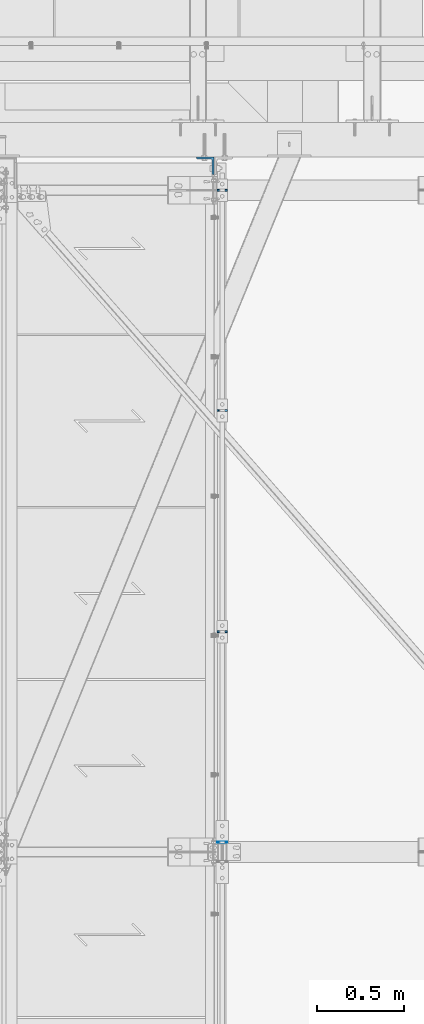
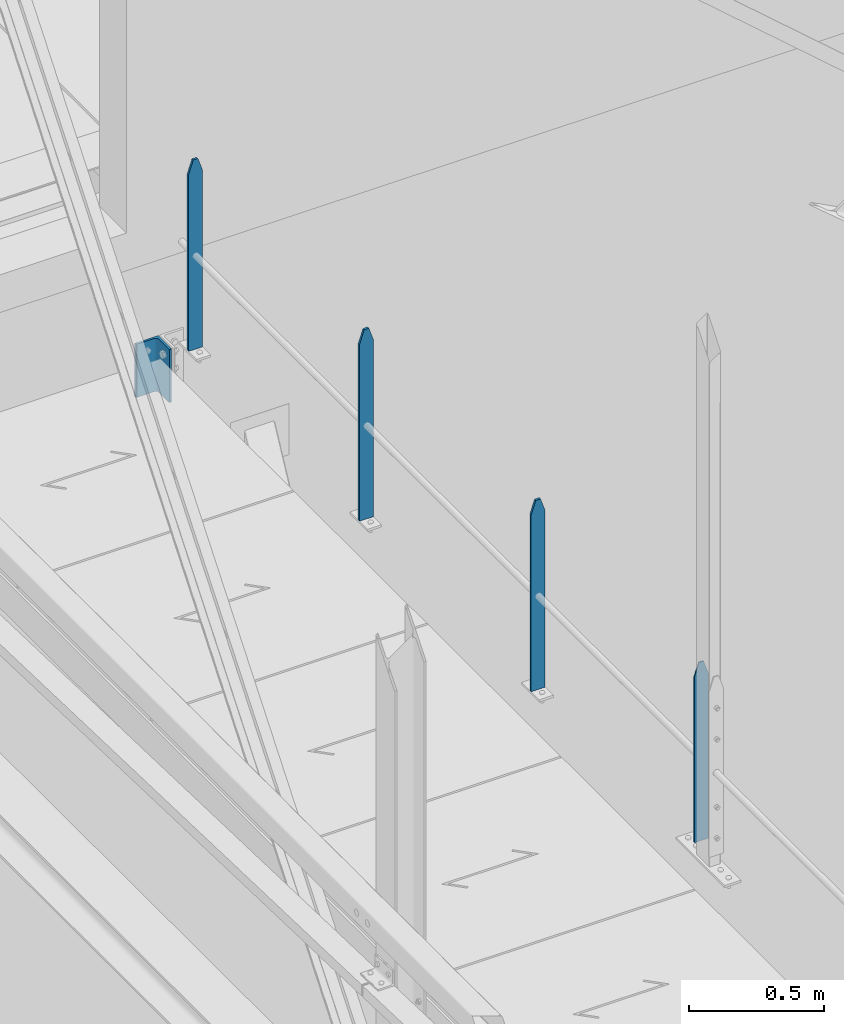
# One storey, part 27 of 362: 5 columns, 2 elements without a shape of their own.
"""IFC2X3 building model written with IfcOpenShell, lengths in millimetres."""

from ifc_helpers import new_model, si_unit, frame, origin_with_axes, origin_2d_with_axis, place, context, subcontext, project, spatial, rectangle, l_section, extrude, clip, halfspace, material, type_object, element, aggregate, save


model = new_model("IFC2X3")

# Units and contexts
model_context = context("Model", 3, precision=1e-05, world=origin_with_axes())
body_context = subcontext(model_context, "Body", "Model", "MODEL_VIEW")
ifc_project = project(units=[si_unit("LENGTHUNIT", "METRE", prefix="MILLI"), si_unit("AREAUNIT", "SQUARE_METRE"), si_unit("VOLUMEUNIT", "CUBIC_METRE"), si_unit("MASSUNIT", "GRAM", prefix="KILO"), si_unit("TIMEUNIT", "SECOND"), si_unit("PLANEANGLEUNIT", "RADIAN"), si_unit("SOLIDANGLEUNIT", "STERADIAN"), si_unit("THERMODYNAMICTEMPERATUREUNIT", "DEGREE_CELSIUS"), si_unit("LUMINOUSINTENSITYUNIT", "LUMEN")], contexts=[model_context])

# Site, building, storey
site_placement = place(None, origin_with_axes())
site = spatial("IfcSite", under=ifc_project, at=site_placement, Name="Undefined", CompositionType="ELEMENT")
building_placement = place(site_placement, origin_with_axes())
building = spatial("IfcBuilding", under=site, at=building_placement, Name="Undefined", CompositionType="ELEMENT")
storey_placement = place(building_placement, origin_with_axes())
storey = spatial("IfcBuildingStorey", under=building, at=storey_placement, Name="Undefined", CompositionType="ELEMENT", Elevation=0.0)

# Assembly, columns
assembly_1_placement = place(storey_placement, origin_with_axes())
assembly_1 = element("IfcElementAssembly", 1, at=assembly_1_placement, inside=storey, Name="MAIN COURANTE", AssemblyPlace="NOTDEFINED", PredefinedType="NOTDEFINED")
ifc_material = material(Name="Undefined/S235-E24")
column_type_1 = type_object("IfcColumnType", Name="PL10*60", PredefinedType="NOTDEFINED")
column_1_placement = place(assembly_1_placement, frame((13993.999893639, 15200.0000000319, 8249.99999828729), z_axis=(0.0, 0.0, 1.0), x_axis=(1.0, 0.0, 0.0)))
column_1 = element("IfcColumn", 2, at=column_1_placement, type_object=column_type_1, material=ifc_material, Name="MONTANT", ObjectType="PL10*60", context=body_context, shape_type="Clipping", body=[
    clip(clip(extrude(rectangle(XDim=10.0, YDim=60.0, at=origin_2d_with_axis()), frame((0.0, 0.0, 857.599997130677), z_axis=(0.0, 0.0, -1.0), x_axis=(0.0, 1.0, 0.0)), (0.0, 0.0, 1.0), 857.6), halfspace(frame((30.0000001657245, -5.000000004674, 797.599997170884), z_axis=(0.948683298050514, 0.0, 0.316227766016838), x_axis=(-0.316227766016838, 0.0, 0.948683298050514)), False)), halfspace(frame((-29.9999998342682, 4.99999999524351, 797.599997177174), z_axis=(-0.948683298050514, 0.0, 0.316227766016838), x_axis=(0.316227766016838, 0.0, 0.948683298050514)), False)),
])
column_2_placement = place(assembly_1_placement, frame((13993.9998916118, 12665.0034471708, 8250.00000011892), z_axis=(0.0, 0.0, 1.0), x_axis=(1.0, 0.0, 0.0)))
column_2 = element("IfcColumn", 3, at=column_2_placement, type_object=column_type_1, material=ifc_material, Name="MONTANT", ObjectType="PL10*60", context=body_context, shape_type="Clipping", body=[
    clip(clip(extrude(rectangle(XDim=10.0, YDim=60.0, at=origin_2d_with_axis()), frame((0.0, 0.0, 857.599997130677), z_axis=(0.0, 0.0, -1.0), x_axis=(0.0, 1.0, 0.0)), (0.0, 0.0, 1.0), 857.6), halfspace(frame((30.0000001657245, -5.000000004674, 797.599997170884), z_axis=(0.948683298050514, 0.0, 0.316227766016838), x_axis=(-0.316227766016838, 0.0, 0.948683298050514)), False)), halfspace(frame((-29.9999998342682, 4.99999999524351, 797.599997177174), z_axis=(-0.948683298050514, 0.0, 0.316227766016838), x_axis=(0.316227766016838, 0.0, 0.948683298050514)), False)),
])
column_3_placement = place(assembly_1_placement, frame((13993.999892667, 13935.0034471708, 8249.99999924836), z_axis=(0.0, 0.0, 1.0), x_axis=(1.0, 0.0, 0.0)))
column_3 = element("IfcColumn", 4, at=column_3_placement, type_object=column_type_1, material=ifc_material, Name="MONTANT", ObjectType="PL10*60", context=body_context, shape_type="Clipping", body=[
    clip(clip(extrude(rectangle(XDim=10.0, YDim=60.0, at=origin_2d_with_axis()), frame((0.0, 0.0, 857.599997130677), z_axis=(0.0, 0.0, -1.0), x_axis=(0.0, 1.0, 0.0)), (0.0, 0.0, 1.0), 857.6), halfspace(frame((30.0000001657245, -5.000000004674, 797.599997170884), z_axis=(0.948683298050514, 0.0, 0.316227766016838), x_axis=(-0.316227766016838, 0.0, 0.948683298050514)), False)), halfspace(frame((-29.9999998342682, 4.99999999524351, 797.599997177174), z_axis=(-0.948683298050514, 0.0, 0.316227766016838), x_axis=(0.316227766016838, 0.0, 0.948683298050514)), False)),
])
column_type_2 = type_object("IfcColumnType", Name="PL5*60", PredefinedType="NOTDEFINED")
column_4_placement = place(assembly_1_placement, frame((13993.9998909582, 11455.0000089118, 8300.00000102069), z_axis=(0.0, 0.0, 1.0), x_axis=(1.0, 0.0, 0.0)))
column_4 = element("IfcColumn", 5, at=column_4_placement, type_object=column_type_2, material=ifc_material, Name="MONTANT", ObjectType="PL5*60", context=body_context, shape_type="Clipping", body=[
    clip(clip(extrude(rectangle(XDim=5.0, YDim=60.0, at=origin_2d_with_axis()), frame((0.0, 0.0, 807.599997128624), z_axis=(0.0, 0.0, -1.0), x_axis=(0.0, 1.0, 0.0)), (0.0, 0.0, 1.0), 807.6), halfspace(frame((29.9999999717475, -5.00000000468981, 747.599997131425), z_axis=(0.948683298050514, 0.0, 0.316227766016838), x_axis=(-0.316227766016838, 0.0, 0.948683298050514)), False)), halfspace(frame((-30.000000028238, 4.99999999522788, 747.599997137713), z_axis=(-0.948683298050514, 0.0, 0.316227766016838), x_axis=(0.316227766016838, 0.0, 0.948683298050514)), False)),
])
aggregate(assembly_1, [column_1, column_4, column_2, column_3])

# Assembly, column
assembly_2_placement = place(storey_placement, origin_with_axes())
assembly_2 = element("IfcElementAssembly", 6, at=assembly_2_placement, inside=storey, AssemblyPlace="NOTDEFINED", PredefinedType="NOTDEFINED")
column_type_3 = type_object("IfcColumnType", Name="L100*10", PredefinedType="NOTDEFINED")
column_5_placement = place(assembly_2_placement, frame((13896.4998855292, 15339.9999998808, 7970.00437164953), z_axis=(0.0, 0.0, 1.0), x_axis=(-1.0, 0.0, 0.0)))
column_5 = element("IfcColumn", 7, at=column_5_placement, type_object=column_type_3, material=ifc_material, Name="ATTACHE", ObjectType="L100*10", context=body_context, shape_type="SweptSolid", body=[
    extrude(l_section(Depth=100.0, Width=100.0, Thickness=10.0, FilletRadius=12.0, EdgeRadius=6.0, at=origin_2d_with_axis()), frame((0.0, 0.0, 239.999999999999), z_axis=(0.0, 0.0, -1.0), x_axis=(0.0, 1.0, 0.0)), (0.0, 0.0, 1.0), 240.0),
])
aggregate(assembly_2, [column_5])

save(model, "model.ifc")
